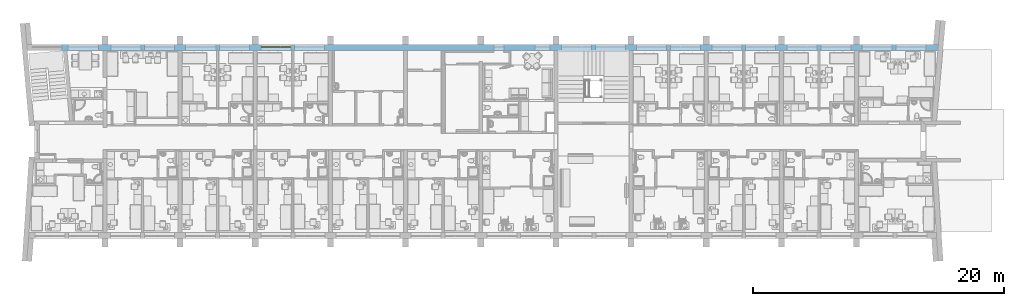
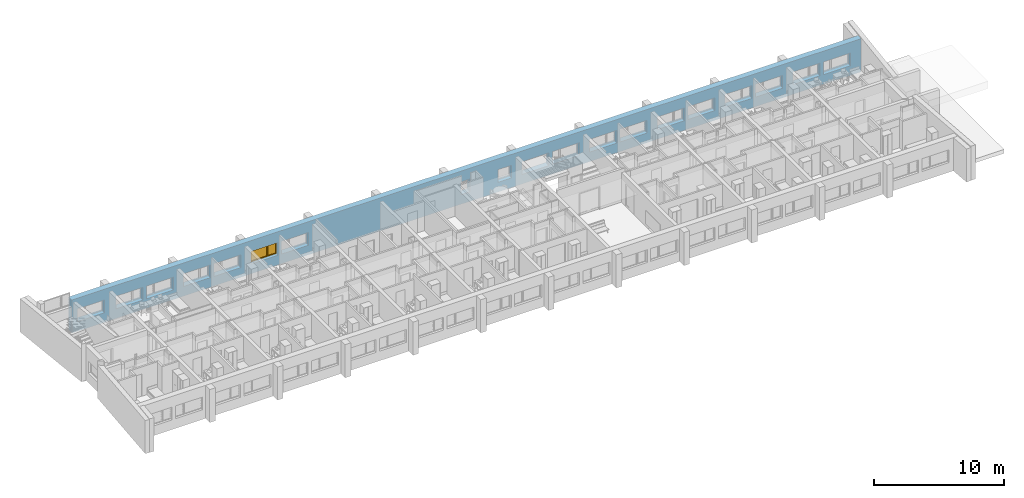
# One storey, part 34 of 172: 1 window, 19 openings, plus 1 element that does not belong to this part.
"""IFC2X3 building model written with IfcOpenShell, lengths in millimetres."""

from ifc_helpers import new_model, entity, si_unit, converted_unit, money_unit, direction, frame, origin_with_axes, place, context, subcontext, project, spatial, polyline, outline, extrude, open_shell, faceted_brep, surface_model, source, transform, mapped, material, material_list, layer, layer_set, layer_usage, type_object, element, fill, save


model = new_model("IFC2X3")

# Units and contexts
model_context = context("Model", 3, precision=1e-05, world=origin_with_axes(), true_north=direction((0.0, 1.0)))
body_context = subcontext(model_context, "Body", "Model", "MODEL_VIEW")
ifc_project = project(units=[si_unit("LENGTHUNIT", "METRE", prefix="MILLI"), si_unit("AREAUNIT", "SQUARE_METRE"), si_unit("VOLUMEUNIT", "CUBIC_METRE"), converted_unit("PLANEANGLEUNIT", "DEGREE", entity("IfcPlaneAngleMeasure", 0.0174532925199), si_unit("PLANEANGLEUNIT", "RADIAN"), dimensions=[0, 0, 0, 0, 0, 0, 0]), si_unit("SOLIDANGLEUNIT", "STERADIAN"), money_unit("USD"), converted_unit("TIMEUNIT", "Year", entity("IfcTimeMeasure", 31556926.0), si_unit("TIMEUNIT", "SECOND"), dimensions=[0, 0, 0, 0, 0, 0, 0]), si_unit("MASSUNIT", "GRAM"), si_unit("THERMODYNAMICTEMPERATUREUNIT", "DEGREE_CELSIUS"), si_unit("LUMINOUSINTENSITYUNIT", "LUMEN")], contexts=[model_context])

# Site, building, storey
site_placement = place(None, origin_with_axes())
site = spatial("IfcSite", under=ifc_project, at=site_placement, Name="Site", CompositionType="ELEMENT")
building_placement = place(site_placement, origin_with_axes())
building = spatial("IfcBuilding", under=site, at=building_placement, Name="Building", CompositionType="ELEMENT")
storey_placement = place(building_placement, frame((0.0, 0.0, 3200.0), z_axis=(0.0, 0.0, 1.0), x_axis=(1.0, 0.0, 0.0)))
storey = spatial("IfcBuildingStorey", under=building, at=storey_placement, Name="3KORRUS", CompositionType="ELEMENT", Elevation=3200.0)

# Wall, openings, window
ifc_material_1 = material(Name="Olemasolevad seinad tellis, uus viimistlus")
ifc_layer = layer(ifc_material_1, 500.0, ventilated="UNKNOWN")
ifc_layer_set = layer_set([ifc_layer], Name="Olemasolevad seinad tellis, uus viimistlus 500")
ifc_layer_usage = layer_usage(ifc_layer_set, "AXIS2", "POSITIVE", -100.0)
wall_type = type_object("IfcWallType", Name="Olemasolevad seinad tellis, uus viimistlus 500", PredefinedType="NOTDEFINED")
wall_placement = place(storey_placement, frame((-51569.3388124, -5039.6041088, 0.0), z_axis=(0.0, 0.0, 1.0), x_axis=(1.0, 0.0, 0.0)))
wall = element("IfcWallStandardCase", 1, at=wall_placement, inside=storey, type_object=wall_type, material=ifc_layer_usage, Name="VS1", ObjectType="VS1", context=body_context, shape_type="SweptSolid", body=[
    extrude(outline(polyline([(0.0, -100.0), (69914.7195482, -100.0), (69959.6995146, 400.0), (0.0, 400.0), (0.0, -100.0)])), origin_with_axes(), (0.0, 0.0, 1.0), 3100.0),
])
opening_1_placement = place(wall_placement, frame((34879.0421091, 0.0, 900.0), z_axis=(0.0, 0.0, 1.0), x_axis=(1.0, 0.0, 0.0)))
element("IfcOpeningElement", 2, at=opening_1_placement, cuts=wall, Name="WD - 001", context=body_context, shape_type="SweptSolid", body=[
    extrude(outline(polyline([(-400.0, 1200.0), (-400.0, 0.0), (400.0, 0.0), (400.0, 1200.0), (-400.0, 1200.0)])), frame((0.0, 200.0, 0.0), z_axis=(0.0, -1.0, 0.0), x_axis=(1.0, 0.0, 0.0)), (0.0, 0.0, 1.0), 800.0),
    extrude(outline(polyline([(-400.0, 0.0), (-400.0, -1200.0), (400.0, -1200.0), (400.0, 0.0), (-400.0, 0.0)])), frame((0.0, 200.0, 0.0), z_axis=(0.0, 1.0, 0.0), x_axis=(1.0, 0.0, 0.0)), (0.0, 0.0, 1.0), 700.0),
])
opening_2_placement = place(wall_placement, frame((38352.6323068, 0.0, 900.0), z_axis=(0.0, 0.0, 1.0), x_axis=(1.0, 0.0, 0.0)))
element("IfcOpeningElement", 3, at=opening_2_placement, cuts=wall, Name="A3", context=body_context, shape_type="SweptSolid", body=[
    extrude(outline(polyline([(-600.0, 1200.0), (-600.0, 0.0), (600.0, 0.0), (600.0, 1200.0), (-600.0, 1200.0)])), frame((0.0, 200.0, 0.0), z_axis=(0.0, -1.0, 0.0), x_axis=(1.0, 0.0, 0.0)), (0.0, 0.0, 1.0), 800.0),
    extrude(outline(polyline([(-600.0, 0.0), (-600.0, -1200.0), (600.0, -1200.0), (600.0, 0.0), (-600.0, 0.0)])), frame((0.0, 200.0, 0.0), z_axis=(0.0, 1.0, 0.0), x_axis=(1.0, 0.0, 0.0)), (0.0, 0.0, 1.0), 700.0),
])
opening_3_placement = place(wall_placement, frame((1700.0, 0.0, 900.0), z_axis=(0.0, 0.0, 1.0), x_axis=(1.0, 0.0, 0.0)))
element("IfcOpeningElement", 4, at=opening_3_placement, cuts=wall, Name="A1", context=body_context, shape_type="SweptSolid", body=[
    extrude(outline(polyline([(1200.0, 1200.0), (-1200.0, 1200.0), (-1200.0, 0.0), (1200.0, 0.0), (1200.0, 1200.0)])), frame((0.0, 200.0, 0.0), z_axis=(0.0, -1.0, 0.0), x_axis=(1.0, 0.0, 0.0)), (0.0, 0.0, 1.0), 800.0),
    extrude(outline(polyline([(1200.0, 0.0), (-1200.0, 0.0), (-1200.0, -1200.0), (1200.0, -1200.0), (1200.0, 0.0)])), frame((0.0, 200.0, 0.0), z_axis=(0.0, 1.0, 0.0), x_axis=(1.0, 0.0, 0.0)), (0.0, 0.0, 1.0), 700.0),
])
opening_4_placement = place(wall_placement, frame((7795.91085613, 0.0, 900.0), z_axis=(0.0, 0.0, 1.0), x_axis=(1.0, 0.0, 0.0)))
element("IfcOpeningElement", 5, at=opening_4_placement, cuts=wall, Name="A1", context=body_context, shape_type="SweptSolid", body=[
    extrude(outline(polyline([(1200.0, 1200.0), (-1200.0, 1200.0), (-1200.0, 0.0), (1200.0, 0.0), (1200.0, 1200.0)])), frame((0.0, 200.0, 0.0), z_axis=(0.0, -1.0, 0.0), x_axis=(1.0, 0.0, 0.0)), (0.0, 0.0, 1.0), 800.0),
    extrude(outline(polyline([(1200.0, 0.0), (-1200.0, 0.0), (-1200.0, -1200.0), (1200.0, -1200.0), (1200.0, 0.0)])), frame((0.0, 200.0, 0.0), z_axis=(0.0, 1.0, 0.0), x_axis=(1.0, 0.0, 0.0)), (0.0, 0.0, 1.0), 700.0),
])
opening_5_placement = place(wall_placement, frame((5095.91085613, 0.0, 900.0), z_axis=(0.0, 0.0, 1.0), x_axis=(1.0, 0.0, 0.0)))
element("IfcOpeningElement", 6, at=opening_5_placement, cuts=wall, Name="A2", context=body_context, shape_type="SweptSolid", body=[
    extrude(outline(polyline([(-1200.0, 1200.0), (-1200.0, 0.0), (1200.0, 0.0), (1200.0, 1200.0), (-1200.0, 1200.0)])), frame((0.0, 200.0, 0.0), z_axis=(0.0, -1.0, 0.0), x_axis=(1.0, 0.0, 0.0)), (0.0, 0.0, 1.0), 800.0),
    extrude(outline(polyline([(-1200.0, 0.0), (-1200.0, -1200.0), (1200.0, -1200.0), (1200.0, 0.0), (-1200.0, 0.0)])), frame((0.0, 200.0, 0.0), z_axis=(0.0, 1.0, 0.0), x_axis=(1.0, 0.0, 0.0)), (0.0, 0.0, 1.0), 700.0),
])
opening_6_placement = place(wall_placement, frame((13779.0421091, 0.0, 900.0), z_axis=(0.0, 0.0, 1.0), x_axis=(1.0, 0.0, 0.0)))
element("IfcOpeningElement", 7, at=opening_6_placement, cuts=wall, Name="A1", context=body_context, shape_type="SweptSolid", body=[
    extrude(outline(polyline([(1200.0, 1200.0), (-1200.0, 1200.0), (-1200.0, 0.0), (1200.0, 0.0), (1200.0, 1200.0)])), frame((0.0, 200.0, 0.0), z_axis=(0.0, -1.0, 0.0), x_axis=(1.0, 0.0, 0.0)), (0.0, 0.0, 1.0), 800.0),
    extrude(outline(polyline([(1200.0, 0.0), (-1200.0, 0.0), (-1200.0, -1200.0), (1200.0, -1200.0), (1200.0, 0.0)])), frame((0.0, 200.0, 0.0), z_axis=(0.0, 1.0, 0.0), x_axis=(1.0, 0.0, 0.0)), (0.0, 0.0, 1.0), 700.0),
])
opening_7_placement = place(wall_placement, frame((11079.0421091, 0.0, 900.0), z_axis=(0.0, 0.0, 1.0), x_axis=(1.0, 0.0, 0.0)))
element("IfcOpeningElement", 8, at=opening_7_placement, cuts=wall, Name="A2", context=body_context, shape_type="SweptSolid", body=[
    extrude(outline(polyline([(-1200.0, 1200.0), (-1200.0, 0.0), (1200.0, 0.0), (1200.0, 1200.0), (-1200.0, 1200.0)])), frame((0.0, 200.0, 0.0), z_axis=(0.0, -1.0, 0.0), x_axis=(1.0, 0.0, 0.0)), (0.0, 0.0, 1.0), 800.0),
    extrude(outline(polyline([(-1200.0, 0.0), (-1200.0, -1200.0), (1200.0, -1200.0), (1200.0, 0.0), (-1200.0, 0.0)])), frame((0.0, 200.0, 0.0), z_axis=(0.0, 1.0, 0.0), x_axis=(1.0, 0.0, 0.0)), (0.0, 0.0, 1.0), 700.0),
])
opening_8_placement = place(wall_placement, frame((43769.0421091, 0.0, 900.0), z_axis=(0.0, 0.0, 1.0), x_axis=(1.0, 0.0, 0.0)))
element("IfcOpeningElement", 9, at=opening_8_placement, cuts=wall, Name="A1", context=body_context, shape_type="SweptSolid", body=[
    extrude(outline(polyline([(1200.0, 1200.0), (-1200.0, 1200.0), (-1200.0, 0.0), (1200.0, 0.0), (1200.0, 1200.0)])), frame((0.0, 200.0, 0.0), z_axis=(0.0, -1.0, 0.0), x_axis=(1.0, 0.0, 0.0)), (0.0, 0.0, 1.0), 800.0),
    extrude(outline(polyline([(1200.0, 0.0), (-1200.0, 0.0), (-1200.0, -1200.0), (1200.0, -1200.0), (1200.0, 0.0)])), frame((0.0, 200.0, 0.0), z_axis=(0.0, 1.0, 0.0), x_axis=(1.0, 0.0, 0.0)), (0.0, 0.0, 1.0), 700.0),
])
opening_9_placement = place(wall_placement, frame((41069.0421091, 0.0, 900.0), z_axis=(0.0, 0.0, 1.0), x_axis=(1.0, 0.0, 0.0)))
element("IfcOpeningElement", 10, at=opening_9_placement, cuts=wall, Name="A2", context=body_context, shape_type="SweptSolid", body=[
    extrude(outline(polyline([(-1200.0, 1200.0), (-1200.0, 0.0), (1200.0, 0.0), (1200.0, 1200.0), (-1200.0, 1200.0)])), frame((0.0, 200.0, 0.0), z_axis=(0.0, -1.0, 0.0), x_axis=(1.0, 0.0, 0.0)), (0.0, 0.0, 1.0), 800.0),
    extrude(outline(polyline([(-1200.0, 0.0), (-1200.0, -1200.0), (1200.0, -1200.0), (1200.0, 0.0), (-1200.0, 0.0)])), frame((0.0, 200.0, 0.0), z_axis=(0.0, 1.0, 0.0), x_axis=(1.0, 0.0, 0.0)), (0.0, 0.0, 1.0), 700.0),
])
opening_10_placement = place(wall_placement, frame((49769.0421091, 0.0, 900.0), z_axis=(0.0, 0.0, 1.0), x_axis=(1.0, 0.0, 0.0)))
element("IfcOpeningElement", 11, at=opening_10_placement, cuts=wall, Name="A1", context=body_context, shape_type="SweptSolid", body=[
    extrude(outline(polyline([(1200.0, 1200.0), (-1200.0, 1200.0), (-1200.0, 0.0), (1200.0, 0.0), (1200.0, 1200.0)])), frame((0.0, 200.0, 0.0), z_axis=(0.0, -1.0, 0.0), x_axis=(1.0, 0.0, 0.0)), (0.0, 0.0, 1.0), 800.0),
    extrude(outline(polyline([(1200.0, 0.0), (-1200.0, 0.0), (-1200.0, -1200.0), (1200.0, -1200.0), (1200.0, 0.0)])), frame((0.0, 200.0, 0.0), z_axis=(0.0, 1.0, 0.0), x_axis=(1.0, 0.0, 0.0)), (0.0, 0.0, 1.0), 700.0),
])
opening_11_placement = place(wall_placement, frame((47069.0421091, 0.0, 900.0), z_axis=(0.0, 0.0, 1.0), x_axis=(1.0, 0.0, 0.0)))
element("IfcOpeningElement", 12, at=opening_11_placement, cuts=wall, Name="A2", context=body_context, shape_type="SweptSolid", body=[
    extrude(outline(polyline([(-1200.0, 1200.0), (-1200.0, 0.0), (1200.0, 0.0), (1200.0, 1200.0), (-1200.0, 1200.0)])), frame((0.0, 200.0, 0.0), z_axis=(0.0, -1.0, 0.0), x_axis=(1.0, 0.0, 0.0)), (0.0, 0.0, 1.0), 800.0),
    extrude(outline(polyline([(-1200.0, 0.0), (-1200.0, -1200.0), (1200.0, -1200.0), (1200.0, 0.0), (-1200.0, 0.0)])), frame((0.0, 200.0, 0.0), z_axis=(0.0, 1.0, 0.0), x_axis=(1.0, 0.0, 0.0)), (0.0, 0.0, 1.0), 700.0),
])
opening_12_placement = place(wall_placement, frame((55769.0421091, 0.0, 900.0), z_axis=(0.0, 0.0, 1.0), x_axis=(1.0, 0.0, 0.0)))
element("IfcOpeningElement", 13, at=opening_12_placement, cuts=wall, Name="A1", context=body_context, shape_type="SweptSolid", body=[
    extrude(outline(polyline([(1200.0, 1200.0), (-1200.0, 1200.0), (-1200.0, 0.0), (1200.0, 0.0), (1200.0, 1200.0)])), frame((0.0, 200.0, 0.0), z_axis=(0.0, -1.0, 0.0), x_axis=(1.0, 0.0, 0.0)), (0.0, 0.0, 1.0), 800.0),
    extrude(outline(polyline([(1200.0, 0.0), (-1200.0, 0.0), (-1200.0, -1200.0), (1200.0, -1200.0), (1200.0, 0.0)])), frame((0.0, 200.0, 0.0), z_axis=(0.0, 1.0, 0.0), x_axis=(1.0, 0.0, 0.0)), (0.0, 0.0, 1.0), 700.0),
])
opening_13_placement = place(wall_placement, frame((53069.0421091, 0.0, 900.0), z_axis=(0.0, 0.0, 1.0), x_axis=(1.0, 0.0, 0.0)))
element("IfcOpeningElement", 14, at=opening_13_placement, cuts=wall, Name="A2", context=body_context, shape_type="SweptSolid", body=[
    extrude(outline(polyline([(-1200.0, 1200.0), (-1200.0, 0.0), (1200.0, 0.0), (1200.0, 1200.0), (-1200.0, 1200.0)])), frame((0.0, 200.0, 0.0), z_axis=(0.0, -1.0, 0.0), x_axis=(1.0, 0.0, 0.0)), (0.0, 0.0, 1.0), 800.0),
    extrude(outline(polyline([(-1200.0, 0.0), (-1200.0, -1200.0), (1200.0, -1200.0), (1200.0, 0.0), (-1200.0, 0.0)])), frame((0.0, 200.0, 0.0), z_axis=(0.0, 1.0, 0.0), x_axis=(1.0, 0.0, 0.0)), (0.0, 0.0, 1.0), 700.0),
])
opening_14_placement = place(wall_placement, frame((61769.0421091, 0.0, 900.0), z_axis=(0.0, 0.0, 1.0), x_axis=(1.0, 0.0, 0.0)))
element("IfcOpeningElement", 15, at=opening_14_placement, cuts=wall, Name="A1", context=body_context, shape_type="SweptSolid", body=[
    extrude(outline(polyline([(1200.0, 1200.0), (-1200.0, 1200.0), (-1200.0, 0.0), (1200.0, 0.0), (1200.0, 1200.0)])), frame((0.0, 200.0, 0.0), z_axis=(0.0, -1.0, 0.0), x_axis=(1.0, 0.0, 0.0)), (0.0, 0.0, 1.0), 800.0),
    extrude(outline(polyline([(1200.0, 0.0), (-1200.0, 0.0), (-1200.0, -1200.0), (1200.0, -1200.0), (1200.0, 0.0)])), frame((0.0, 200.0, 0.0), z_axis=(0.0, 1.0, 0.0), x_axis=(1.0, 0.0, 0.0)), (0.0, 0.0, 1.0), 700.0),
])
opening_15_placement = place(wall_placement, frame((59069.0421091, 0.0, 900.0), z_axis=(0.0, 0.0, 1.0), x_axis=(1.0, 0.0, 0.0)))
element("IfcOpeningElement", 16, at=opening_15_placement, cuts=wall, Name="A2", context=body_context, shape_type="SweptSolid", body=[
    extrude(outline(polyline([(-1200.0, 1200.0), (-1200.0, 0.0), (1200.0, 0.0), (1200.0, 1200.0), (-1200.0, 1200.0)])), frame((0.0, 200.0, 0.0), z_axis=(0.0, -1.0, 0.0), x_axis=(1.0, 0.0, 0.0)), (0.0, 0.0, 1.0), 800.0),
    extrude(outline(polyline([(-1200.0, 0.0), (-1200.0, -1200.0), (1200.0, -1200.0), (1200.0, 0.0), (-1200.0, 0.0)])), frame((0.0, 200.0, 0.0), z_axis=(0.0, 1.0, 0.0), x_axis=(1.0, 0.0, 0.0)), (0.0, 0.0, 1.0), 700.0),
])
opening_16_placement = place(wall_placement, frame((67773.3244043, 0.0, 900.0), z_axis=(0.0, 0.0, 1.0), x_axis=(1.0, 0.0, 0.0)))
element("IfcOpeningElement", 17, at=opening_16_placement, cuts=wall, Name="A1", context=body_context, shape_type="SweptSolid", body=[
    extrude(outline(polyline([(1200.0, 1200.0), (-1200.0, 1200.0), (-1200.0, 0.0), (1200.0, 0.0), (1200.0, 1200.0)])), frame((0.0, 200.0, 0.0), z_axis=(0.0, -1.0, 0.0), x_axis=(1.0, 0.0, 0.0)), (0.0, 0.0, 1.0), 800.0),
    extrude(outline(polyline([(1200.0, 0.0), (-1200.0, 0.0), (-1200.0, -1200.0), (1200.0, -1200.0), (1200.0, 0.0)])), frame((0.0, 200.0, 0.0), z_axis=(0.0, 1.0, 0.0), x_axis=(1.0, 0.0, 0.0)), (0.0, 0.0, 1.0), 700.0),
])
opening_17_placement = place(wall_placement, frame((65073.3244043, 0.0, 900.0), z_axis=(0.0, 0.0, 1.0), x_axis=(1.0, 0.0, 0.0)))
element("IfcOpeningElement", 18, at=opening_17_placement, cuts=wall, Name="A2", context=body_context, shape_type="SweptSolid", body=[
    extrude(outline(polyline([(-1200.0, 1200.0), (-1200.0, 0.0), (1200.0, 0.0), (1200.0, 1200.0), (-1200.0, 1200.0)])), frame((0.0, 200.0, 0.0), z_axis=(0.0, -1.0, 0.0), x_axis=(1.0, 0.0, 0.0)), (0.0, 0.0, 1.0), 800.0),
    extrude(outline(polyline([(-1200.0, 0.0), (-1200.0, -1200.0), (1200.0, -1200.0), (1200.0, 0.0), (-1200.0, 0.0)])), frame((0.0, 200.0, 0.0), z_axis=(0.0, 1.0, 0.0), x_axis=(1.0, 0.0, 0.0)), (0.0, 0.0, 1.0), 700.0),
])
opening_18_placement = place(wall_placement, frame((19767.4765851, 0.0, 900.0), z_axis=(0.0, 0.0, 1.0), x_axis=(1.0, 0.0, 0.0)))
element("IfcOpeningElement", 19, at=opening_18_placement, cuts=wall, Name="A1", context=body_context, shape_type="SweptSolid", body=[
    extrude(outline(polyline([(1200.0, 1200.0), (-1200.0, 1200.0), (-1200.0, 0.0), (1200.0, 0.0), (1200.0, 1200.0)])), frame((0.0, 200.0, 0.0), z_axis=(0.0, -1.0, 0.0), x_axis=(1.0, 0.0, 0.0)), (0.0, 0.0, 1.0), 800.0),
    extrude(outline(polyline([(1200.0, 0.0), (-1200.0, 0.0), (-1200.0, -1200.0), (1200.0, -1200.0), (1200.0, 0.0)])), frame((0.0, 200.0, 0.0), z_axis=(0.0, 1.0, 0.0), x_axis=(1.0, 0.0, 0.0)), (0.0, 0.0, 1.0), 700.0),
])
opening_19_placement = place(wall_placement, frame((17067.4765851, 0.0, 900.0), z_axis=(0.0, 0.0, 1.0), x_axis=(1.0, 0.0, 0.0)))
opening_19 = element("IfcOpeningElement", 20, at=opening_19_placement, cuts=wall, Name="A2", context=body_context, shape_type="SweptSolid", body=[
    extrude(outline(polyline([(-1200.0, 1200.0), (-1200.0, 0.0), (1200.0, 0.0), (1200.0, 1200.0), (-1200.0, 1200.0)])), frame((0.0, 200.0, 0.0), z_axis=(0.0, -1.0, 0.0), x_axis=(1.0, 0.0, 0.0)), (0.0, 0.0, 1.0), 800.0),
    extrude(outline(polyline([(-1200.0, 0.0), (-1200.0, -1200.0), (1200.0, -1200.0), (1200.0, 0.0), (-1200.0, 0.0)])), frame((0.0, 200.0, 0.0), z_axis=(0.0, 1.0, 0.0), x_axis=(1.0, 0.0, 0.0)), (0.0, 0.0, 1.0), 700.0),
])
ifc_material_2 = material(Name="Background")
ifc_material_list = material_list([ifc_material_2])
window_style = type_object("IfcWindowStyle", Name="Double Window 19", ConstructionType="NOTDEFINED", OperationType="DOUBLE_PANEL_VERTICAL", ParameterTakesPrecedence=False, Sizeable=False)
shared_shape = source(origin_with_axes(), body_context, "Body", "SurfaceModel", [
    faceted_brep([(-1175.0, -200.0, 1150.0), (-1200.0, -200.0, 1150.0), (-1200.0, -250.0, 1150.0), (-1150.0, -250.0, 1150.0), (-1150.0, -225.0, 1150.0), (-1175.0, -225.0, 1150.0), (-1175.0, -200.0, 50.0), (-1200.0, -200.0, 50.0), (-1200.0, -250.0, 50.0), (-1150.0, -250.0, 50.0), (-1150.0, -225.0, 50.0), (-1175.0, -225.0, 50.0)], [[[0, 1, 2, 3, 4, 5]], [[6, 7, 1, 0]], [[1, 7, 8, 2]], [[2, 8, 9, 3]], [[4, 3, 9, 10]], [[10, 11, 5, 4]], [[5, 11, 6, 0]], [[11, 10, 9, 8, 7, 6]]]),
    faceted_brep([(1150.0, -225.0, 1150.0), (1150.0, -250.0, 1150.0), (1200.0, -250.0, 1150.0), (1200.0, -200.0, 1150.0), (1175.0, -200.0, 1150.0), (1175.0, -225.0, 1150.0), (1150.0, -225.0, 50.0), (1150.0, -250.0, 50.0), (1200.0, -250.0, 50.0), (1200.0, -200.0, 50.0), (1175.0, -200.0, 50.0), (1175.0, -225.0, 50.0)], [[[0, 1, 2, 3, 4, 5]], [[6, 7, 1, 0]], [[8, 2, 1, 7]], [[9, 3, 2, 8]], [[4, 3, 9, 10]], [[10, 11, 5, 4]], [[5, 11, 6, 0]], [[11, 10, 9, 8, 7, 6]]]),
    faceted_brep([(350.0, -225.0, 1150.0), (350.0, -250.0, 1150.0), (450.0, -250.0, 1150.0), (450.0, -225.0, 1150.0), (425.0, -225.0, 1150.0), (425.0, -200.0, 1150.0), (375.0, -200.0, 1150.0), (375.0, -225.0, 1150.0), (350.0, -225.0, 50.0), (350.0, -250.0, 50.0), (450.0, -250.0, 50.0), (450.0, -225.0, 50.0), (425.0, -225.0, 50.0), (425.0, -200.0, 50.0), (375.0, -200.0, 50.0), (375.0, -225.0, 50.0)], [[[0, 1, 2, 3, 4, 5, 6, 7]], [[8, 9, 1, 0]], [[10, 2, 1, 9]], [[3, 2, 10, 11]], [[11, 12, 4, 3]], [[4, 12, 13, 5]], [[6, 5, 13, 14]], [[14, 15, 7, 6]], [[7, 15, 8, 0]], [[15, 14, 13, 12, 11, 10, 9, 8]]]),
    faceted_brep([(350.0, -225.0, 50.0), (350.0, -250.0, 50.0), (450.0, -250.0, 50.0), (450.0, -225.0, 50.0), (425.0, -225.0, 50.0), (425.0, -200.0, 50.0), (375.0, -200.0, 50.0), (375.0, -225.0, 50.0), (-1150.0, -225.0, 50.0), (-1150.0, -250.0, 50.0), (-1200.0, -250.0, 50.0), (-1200.0, -250.0, 0.0), (1200.0, -250.0, 0.0), (1200.0, -250.0, 50.0), (1150.0, -250.0, 50.0), (1150.0, -225.0, 50.0), (1175.0, -225.0, 50.0), (1175.0, -225.0, 25.0), (425.0, -225.0, 25.0), (425.0, -200.0, 25.0), (-1175.0, -200.0, 25.0), (375.0, -200.0, 25.0), (1175.0, -200.0, 25.0), (1175.0, -200.0, 50.0), (1200.0, -200.0, 50.0), (1200.0, -200.0, 0.0), (-1200.0, -200.0, 0.0), (-1200.0, -200.0, 50.0), (-1175.0, -200.0, 50.0), (375.0, -225.0, 25.0), (-1175.0, -225.0, 25.0), (-1175.0, -225.0, 50.0)], [[[0, 1, 2, 3, 4, 5, 6, 7]], [[8, 9, 1, 0]], [[10, 11, 12, 13, 14, 2, 1, 9]], [[3, 2, 14, 15]], [[16, 17, 18, 4, 3, 15]], [[4, 18, 19, 5]], [[20, 21, 6, 5, 19, 22, 23, 24, 25, 26, 27, 28]], [[21, 29, 7, 6]], [[7, 29, 30, 31, 8, 0]], [[31, 28, 27, 10, 9, 8]], [[27, 26, 11, 10]], [[26, 25, 12, 11]], [[25, 24, 13, 12]], [[15, 14, 13, 24, 23, 16]], [[22, 17, 16, 23]], [[19, 18, 17, 22]], [[20, 30, 29, 21]], [[31, 30, 20, 28]]]),
    faceted_brep([(-1175.0, -200.0, 1150.0), (-1200.0, -200.0, 1150.0), (-1200.0, -200.0, 1200.0), (1200.0, -200.0, 1200.0), (1200.0, -200.0, 1150.0), (1175.0, -200.0, 1150.0), (1175.0, -200.0, 1175.0), (425.0, -200.0, 1175.0), (425.0, -200.0, 1150.0), (375.0, -200.0, 1150.0), (375.0, -200.0, 1175.0), (-1175.0, -200.0, 1175.0), (-1175.0, -225.0, 1150.0), (-1150.0, -225.0, 1150.0), (-1150.0, -250.0, 1150.0), (-1200.0, -250.0, 1150.0), (-1200.0, -250.0, 1200.0), (1200.0, -250.0, 1200.0), (1200.0, -250.0, 1150.0), (1175.0, -225.0, 1150.0), (1150.0, -250.0, 1150.0), (1150.0, -225.0, 1150.0), (1175.0, -225.0, 1175.0), (425.0, -225.0, 1175.0), (425.0, -225.0, 1150.0), (375.0, -225.0, 1150.0), (450.0, -225.0, 1150.0), (450.0, -250.0, 1150.0), (350.0, -250.0, 1150.0), (350.0, -225.0, 1150.0), (375.0, -225.0, 1175.0), (-1175.0, -225.0, 1175.0)], [[[0, 1, 2, 3, 4, 5, 6, 7, 8, 9, 10, 11]], [[12, 13, 14, 15, 1, 0]], [[2, 1, 15, 16]], [[3, 2, 16, 17]], [[4, 3, 17, 18]], [[19, 5, 4, 18, 20, 21]], [[5, 19, 22, 6]], [[6, 22, 23, 7]], [[7, 23, 24, 8]], [[25, 9, 8, 24, 26, 27, 28, 29]], [[9, 25, 30, 10]], [[10, 30, 31, 11]], [[11, 31, 12, 0]], [[29, 13, 12, 31, 30, 25]], [[29, 28, 14, 13]], [[27, 20, 18, 17, 16, 15, 14, 28]], [[21, 20, 27, 26]], [[21, 26, 24, 23, 22, 19]]]),
    faceted_brep([(-1125.0, -225.0, 1125.0), (-1125.0, -175.0, 1125.0), (-1175.0, -175.0, 1125.0), (-1175.0, -225.0, 1125.0), (-1125.0, -225.0, 75.0), (-1125.0, -175.0, 75.0), (-1175.0, -175.0, 75.0), (-1175.0, -225.0, 75.0)], [[[0, 1, 2, 3]], [[4, 5, 1, 0]], [[1, 5, 6, 2]], [[3, 2, 6, 7]], [[0, 3, 7, 4]], [[7, 6, 5, 4]]]),
    faceted_brep([(325.0, -225.0, 75.0), (325.0, -175.0, 75.0), (375.0, -175.0, 75.0), (375.0, -225.0, 75.0), (325.0, -225.0, 1125.0), (325.0, -175.0, 1125.0), (375.0, -175.0, 1125.0), (375.0, -225.0, 1125.0)], [[[0, 1, 2, 3]], [[4, 5, 1, 0]], [[1, 5, 6, 2]], [[3, 2, 6, 7]], [[0, 3, 7, 4]], [[7, 6, 5, 4]]]),
    faceted_brep([(375.0, -225.0, 25.0), (375.0, -175.0, 25.0), (375.0, -175.0, 75.0), (375.0, -225.0, 75.0), (-1175.0, -225.0, 25.0), (-1175.0, -175.0, 25.0), (-1175.0, -175.0, 75.0), (-1125.0, -175.0, 75.0), (325.0, -175.0, 75.0), (325.0, -225.0, 75.0), (-1125.0, -225.0, 75.0), (-1175.0, -225.0, 75.0)], [[[0, 1, 2, 3]], [[4, 5, 1, 0]], [[1, 5, 6, 7, 8, 2]], [[3, 2, 8, 9]], [[0, 3, 9, 10, 11, 4]], [[11, 6, 5, 4]], [[10, 7, 6, 11]], [[9, 8, 7, 10]]]),
    faceted_brep([(-1175.0, -225.0, 1175.0), (-1175.0, -175.0, 1175.0), (-1175.0, -175.0, 1125.0), (-1175.0, -225.0, 1125.0), (375.0, -225.0, 1175.0), (375.0, -175.0, 1175.0), (375.0, -175.0, 1125.0), (325.0, -175.0, 1125.0), (-1125.0, -175.0, 1125.0), (-1125.0, -225.0, 1125.0), (325.0, -225.0, 1125.0), (375.0, -225.0, 1125.0)], [[[0, 1, 2, 3]], [[4, 5, 1, 0]], [[1, 5, 6, 7, 8, 2]], [[3, 2, 8, 9]], [[0, 3, 9, 10, 11, 4]], [[11, 6, 5, 4]], [[10, 7, 6, 11]], [[9, 8, 7, 10]]]),
    surface_model("IfcShellBasedSurfaceModel", [(-1125.0, -210.0, 75.0), (325.0, -210.0, 75.0), (325.0, -210.0, 1125.0), (-1125.0, -210.0, 1125.0)], [open_shell([[[0, 1, 2, 3]]])]),
    surface_model("IfcShellBasedSurfaceModel", [(-1125.0, -190.0, 75.0), (-1125.0, -190.0, 1125.0), (325.0, -190.0, 1125.0), (325.0, -190.0, 75.0)], [open_shell([[[0, 1, 2, 3]]])]),
    faceted_brep([(475.0, -225.0, 1125.0), (475.0, -175.0, 1125.0), (425.0, -175.0, 1125.0), (425.0, -225.0, 1125.0), (475.0, -225.0, 75.0), (475.0, -175.0, 75.0), (425.0, -175.0, 75.0), (425.0, -225.0, 75.0)], [[[0, 1, 2, 3]], [[4, 5, 1, 0]], [[1, 5, 6, 2]], [[3, 2, 6, 7]], [[0, 3, 7, 4]], [[7, 6, 5, 4]]]),
    faceted_brep([(1125.0, -225.0, 75.0), (1125.0, -175.0, 75.0), (1175.0, -175.0, 75.0), (1175.0, -225.0, 75.0), (1125.0, -225.0, 1125.0), (1125.0, -175.0, 1125.0), (1175.0, -175.0, 1125.0), (1175.0, -225.0, 1125.0)], [[[0, 1, 2, 3]], [[4, 5, 1, 0]], [[1, 5, 6, 2]], [[3, 2, 6, 7]], [[0, 3, 7, 4]], [[7, 6, 5, 4]]]),
    faceted_brep([(1175.0, -225.0, 25.0), (1175.0, -175.0, 25.0), (1175.0, -175.0, 75.0), (1175.0, -225.0, 75.0), (425.0, -225.0, 25.0), (425.0, -175.0, 25.0), (425.0, -175.0, 75.0), (475.0, -175.0, 75.0), (1125.0, -175.0, 75.0), (1125.0, -225.0, 75.0), (475.0, -225.0, 75.0), (425.0, -225.0, 75.0)], [[[0, 1, 2, 3]], [[4, 5, 1, 0]], [[1, 5, 6, 7, 8, 2]], [[3, 2, 8, 9]], [[0, 3, 9, 10, 11, 4]], [[11, 6, 5, 4]], [[10, 7, 6, 11]], [[9, 8, 7, 10]]]),
    faceted_brep([(425.0, -225.0, 1175.0), (425.0, -175.0, 1175.0), (425.0, -175.0, 1125.0), (425.0, -225.0, 1125.0), (1175.0, -225.0, 1175.0), (1175.0, -175.0, 1175.0), (1175.0, -175.0, 1125.0), (1125.0, -175.0, 1125.0), (475.0, -175.0, 1125.0), (475.0, -225.0, 1125.0), (1125.0, -225.0, 1125.0), (1175.0, -225.0, 1125.0)], [[[0, 1, 2, 3]], [[4, 5, 1, 0]], [[1, 5, 6, 7, 8, 2]], [[3, 2, 8, 9]], [[0, 3, 9, 10, 11, 4]], [[11, 6, 5, 4]], [[10, 7, 6, 11]], [[9, 8, 7, 10]]]),
    surface_model("IfcShellBasedSurfaceModel", [(475.0, -210.0, 75.0), (1125.0, -210.0, 75.0), (1125.0, -210.0, 1125.0), (475.0, -210.0, 1125.0)], [open_shell([[[0, 1, 2, 3]]])]),
    surface_model("IfcShellBasedSurfaceModel", [(475.0, -190.0, 75.0), (475.0, -190.0, 1125.0), (1125.0, -190.0, 1125.0), (1125.0, -190.0, 75.0)], [open_shell([[[0, 1, 2, 3]]])]),
])
window_placement = place(opening_19_placement, frame((-1200.0, 0.0, 0.0), z_axis=(0.0, 0.0, 1.0), x_axis=(1.0, 0.0, 0.0)))
window = element("IfcWindow", 21, at=window_placement, inside=storey, type_object=window_style, material=ifc_material_list, Name="A2", ObjectType="A2", OverallHeight=1200.0, OverallWidth=2400.0, context=body_context, shape_type="MappedRepresentation", body=[
    mapped(shared_shape, transform((1200.0, 400.0, 0.0))),
])
fill(opening_19, window)

save(model, "model.ifc")
